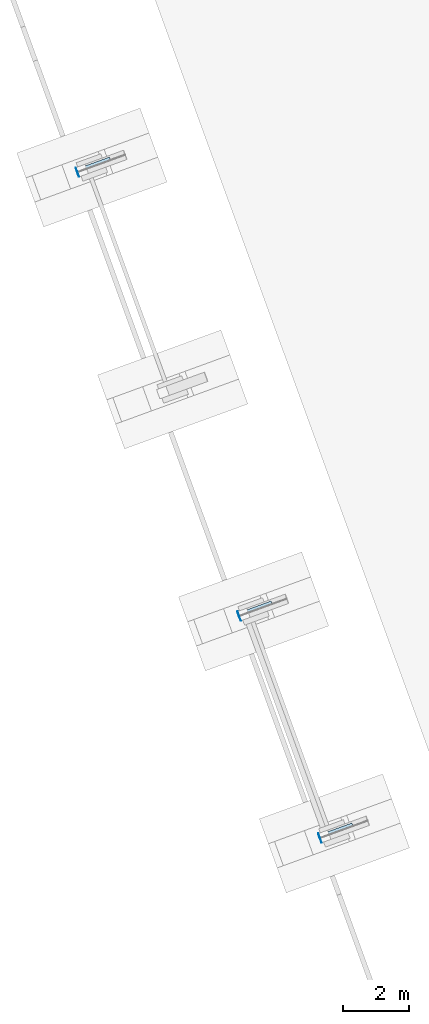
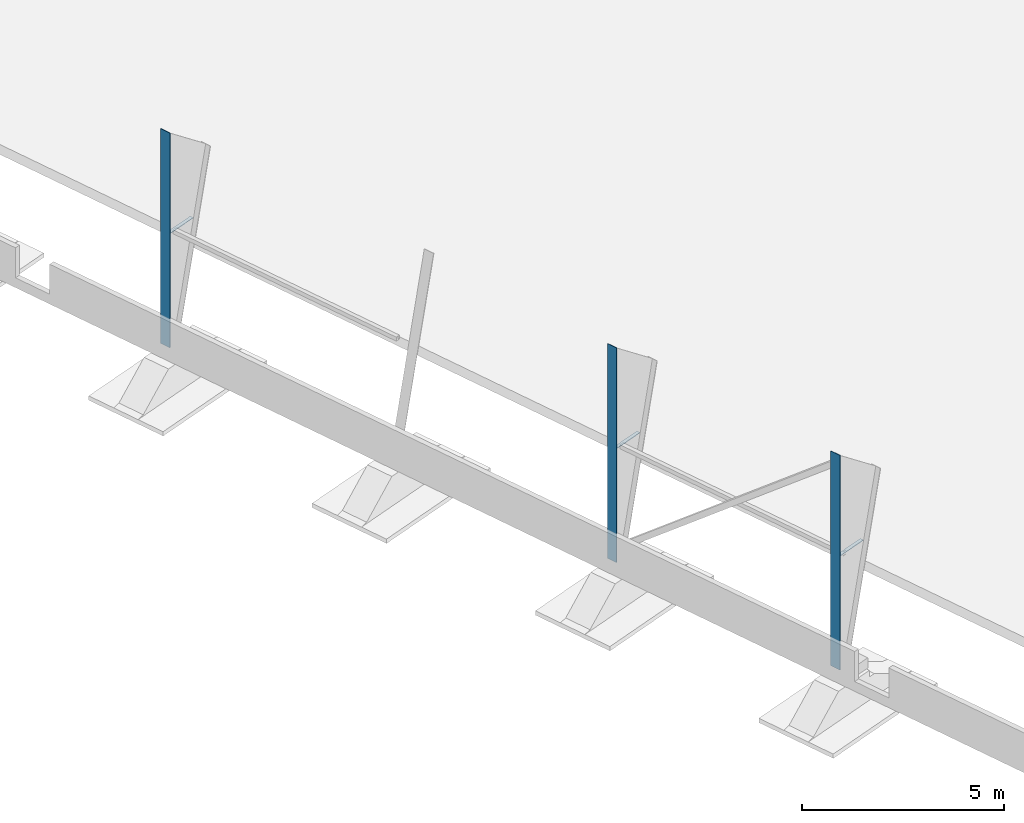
# One storey, part 15 of 20: 6 plates, 6 elements without a shape of their own.
"""IFC4 building model written with IfcOpenShell, lengths in millimetres."""

from ifc_helpers import new_model, si_unit, direction, frame, origin_with_axes, place, context, subcontext, project, spatial, polygons, material, element, aggregate, save


model = new_model("IFC4")

# Units and contexts
model_context = context("Model", 3, precision=0.2, world=frame((203566.813, 116264.779, 0.0), z_axis=(0.0, 0.0, 1.0), x_axis=(1.0, 0.0, 0.0)), true_north=direction((-0.9396138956, -0.3422363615)))
body_context = subcontext(model_context, "Body", "Model", "MODEL_VIEW")
ifc_project = project(units=[si_unit("LENGTHUNIT", "METRE", prefix="MILLI"), si_unit("AREAUNIT", "SQUARE_METRE"), si_unit("VOLUMEUNIT", "CUBIC_METRE"), si_unit("MASSUNIT", "GRAM", prefix="KILO"), si_unit("TIMEUNIT", "SECOND"), si_unit("PLANEANGLEUNIT", "RADIAN"), si_unit("SOLIDANGLEUNIT", "STERADIAN"), si_unit("THERMODYNAMICTEMPERATUREUNIT", "DEGREE_CELSIUS"), si_unit("LUMINOUSINTENSITYUNIT", "LUMEN")], contexts=[model_context])

# Site, building, storey
site_placement = place(None, origin_with_axes())
site = spatial("IfcSite", under=ifc_project, at=site_placement, Name="Nobelprojektet", CompositionType="ELEMENT")
building_placement = place(site_placement, origin_with_axes())
building = spatial("IfcBuilding", under=site, at=building_placement, Name="Hall B", CompositionType="ELEMENT")
storey_placement = place(building_placement, frame((0.0, 0.0, 1000.0), z_axis=(0.0, 0.0, 1.0), x_axis=(1.0, 0.0, 0.0)))
storey = spatial("IfcBuildingStorey", under=building, at=storey_placement, Name="Plan_1", CompositionType="ELEMENT", Elevation=1000.0)

# Assembly, plate
assembly_1_placement = place(storey_placement, frame((148011.88517, 119672.80677, 132199.9886), z_axis=(0.9396136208, 0.3422371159, 0.0), x_axis=(0.0, 0.0, 1.0)))
assembly_1 = element("IfcElementAssembly", 1, at=assembly_1_placement, inside=storey, Name="BEF. STOMME", PredefinedType="NOTDEFINED")
ifc_material = material(Name="S355J2", Category="STEEL")
plate_1_placement = place(assembly_1_placement, frame((6473.48022, 0.0, 0.0), z_axis=(-1.0, 0.0, 0.0), x_axis=(0.0, 0.0, 1.0)))
plate_1 = element("IfcPlate", 2, at=plate_1_placement, material=ifc_material, Name="BEF. STOMME", PredefinedType="NOTDEFINED", context=body_context, shape_type="Tessellation", body=[
    polygons([(-7.5, -150.0, 6473.48022), (-7.5, 150.0, 6473.48022), (-7.5, 150.0, 0.0), (-7.5, -150.0, 0.0), (7.5, 150.0, 6473.48022), (7.5, 150.0, 0.0), (7.5, -150.0, 6473.48022), (7.5, -150.0, 0.0)], [[[1, 2, 3, 4]], [[2, 5, 6, 3]], [[5, 7, 8, 6]], [[7, 1, 4, 8]], [[6, 8, 4, 3]], [[7, 5, 2, 1]]], closed=True),
])
aggregate(assembly_1, [plate_1])

assembly_2_placement = place(storey_placement, frame((148001.81984, 119722.35403, 135472.48799), z_axis=(0.0, 0.0, -1.0), x_axis=(0.9396136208, 0.3422371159, 0.0)))
assembly_2 = element("IfcElementAssembly", 3, at=assembly_2_placement, inside=storey, Name="BEF. STOMME", PredefinedType="NOTDEFINED")
plate_2_placement = place(assembly_2_placement, frame((1065.0, 0.0, 0.0), z_axis=(-1.0, 0.0, 0.0), x_axis=(0.0, 0.0, 1.0)))
plate_2 = element("IfcPlate", 4, at=plate_2_placement, material=ifc_material, Name="BEF. STOMME", PredefinedType="NOTDEFINED", context=body_context, shape_type="Tessellation", body=[
    polygons([(-7.5, -50.0, 1065.0), (-7.5, 50.0, 1065.0), (-7.5, 50.0, 0.0), (-7.5, -50.0, 0.0), (7.5, 50.0, 1065.0), (7.5, 50.0, 0.0), (7.5, -50.0, 1065.0), (7.5, -50.0, 0.0)], [[[1, 2, 3, 4]], [[2, 5, 6, 3]], [[5, 7, 8, 6]], [[7, 1, 4, 8]], [[6, 8, 4, 3]], [[7, 5, 2, 1]]], closed=True),
])
aggregate(assembly_2, [plate_2])

assembly_3_placement = place(storey_placement, frame((145547.7778, 126438.02434, 132199.9886), z_axis=(0.9396136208, 0.3422371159, 0.0), x_axis=(0.0, 0.0, 1.0)))
assembly_3 = element("IfcElementAssembly", 5, at=assembly_3_placement, inside=storey, Name="BEF. STOMME", PredefinedType="NOTDEFINED")
plate_3_placement = place(assembly_3_placement, frame((6473.48022, 0.0, 0.0), z_axis=(-1.0, 0.0, 0.0), x_axis=(0.0, 0.0, 1.0)))
plate_3 = element("IfcPlate", 6, at=plate_3_placement, material=ifc_material, Name="BEF. STOMME", PredefinedType="NOTDEFINED", context=body_context, shape_type="Tessellation", body=[
    polygons([(-7.5, -150.0, 6473.48022), (-7.5, 150.0, 6473.48022), (-7.5, 150.0, 0.0), (-7.5, -150.0, 0.0), (7.5, 150.0, 6473.48022), (7.5, 150.0, 0.0), (7.5, -150.0, 6473.48022), (7.5, -150.0, 0.0)], [[[1, 2, 3, 4]], [[2, 5, 6, 3]], [[5, 7, 8, 6]], [[7, 1, 4, 8]], [[6, 8, 4, 3]], [[7, 5, 2, 1]]], closed=True),
])
aggregate(assembly_3, [plate_3])

assembly_4_placement = place(storey_placement, frame((145537.71247, 126487.57159, 135472.48799), z_axis=(0.0, 0.0, -1.0), x_axis=(0.9396136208, 0.3422371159, 0.0)))
assembly_4 = element("IfcElementAssembly", 7, at=assembly_4_placement, inside=storey, Name="BEF. STOMME", PredefinedType="NOTDEFINED")
plate_4_placement = place(assembly_4_placement, frame((1065.0, 0.0, 0.0), z_axis=(-1.0, 0.0, 0.0), x_axis=(0.0, 0.0, 1.0)))
plate_4 = element("IfcPlate", 8, at=plate_4_placement, material=ifc_material, Name="BEF. STOMME", PredefinedType="NOTDEFINED", context=body_context, shape_type="Tessellation", body=[
    polygons([(-7.5, -50.0, 1065.0), (-7.5, 50.0, 1065.0), (-7.5, 50.0, 0.0), (-7.5, -50.0, 0.0), (7.5, 50.0, 1065.0), (7.5, 50.0, 0.0), (7.5, -50.0, 1065.0), (7.5, -50.0, 0.0)], [[[1, 2, 3, 4]], [[2, 5, 6, 3]], [[5, 7, 8, 6]], [[7, 1, 4, 8]], [[6, 8, 4, 3]], [[7, 5, 2, 1]]], closed=True),
])
aggregate(assembly_4, [plate_4])

assembly_5_placement = place(storey_placement, frame((140619.56291, 139968.46093, 132199.9886), z_axis=(0.9396136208, 0.3422371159, 0.0), x_axis=(0.0, 0.0, 1.0)))
assembly_5 = element("IfcElementAssembly", 9, at=assembly_5_placement, inside=storey, Name="BEF. STOMME", PredefinedType="NOTDEFINED")
plate_5_placement = place(assembly_5_placement, frame((6473.48022, 0.0, 0.0), z_axis=(-1.0, 0.0, 0.0), x_axis=(0.0, 0.0, 1.0)))
plate_5 = element("IfcPlate", 10, at=plate_5_placement, material=ifc_material, Name="BEF. STOMME", PredefinedType="NOTDEFINED", context=body_context, shape_type="Tessellation", body=[
    polygons([(-7.5, -150.0, 6473.48022), (-7.5, 150.0, 6473.48022), (-7.5, 150.0, 0.0), (-7.5, -150.0, 0.0), (7.5, 150.0, 6473.48022), (7.5, 150.0, 0.0), (7.5, -150.0, 6473.48022), (7.5, -150.0, 0.0)], [[[1, 2, 3, 4]], [[2, 5, 6, 3]], [[5, 7, 8, 6]], [[7, 1, 4, 8]], [[6, 8, 4, 3]], [[7, 5, 2, 1]]], closed=True),
])
aggregate(assembly_5, [plate_5])

assembly_6_placement = place(storey_placement, frame((140609.49758, 140018.00818, 135472.48799), z_axis=(0.0, 0.0, -1.0), x_axis=(0.9396136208, 0.3422371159, 0.0)))
assembly_6 = element("IfcElementAssembly", 11, at=assembly_6_placement, inside=storey, Name="BEF. STOMME", PredefinedType="NOTDEFINED")
plate_6_placement = place(assembly_6_placement, frame((1065.0, 0.0, 0.0), z_axis=(-1.0, 0.0, 0.0), x_axis=(0.0, 0.0, 1.0)))
plate_6 = element("IfcPlate", 12, at=plate_6_placement, material=ifc_material, Name="BEF. STOMME", PredefinedType="NOTDEFINED", context=body_context, shape_type="Tessellation", body=[
    polygons([(-7.5, -50.0, 1065.0), (-7.5, 50.0, 1065.0), (-7.5, 50.0, 0.0), (-7.5, -50.0, 0.0), (7.5, 50.0, 1065.0), (7.5, 50.0, 0.0), (7.5, -50.0, 1065.0), (7.5, -50.0, 0.0)], [[[1, 2, 3, 4]], [[2, 5, 6, 3]], [[5, 7, 8, 6]], [[7, 1, 4, 8]], [[6, 8, 4, 3]], [[7, 5, 2, 1]]], closed=True),
])
aggregate(assembly_6, [plate_6])

save(model, "model.ifc")
